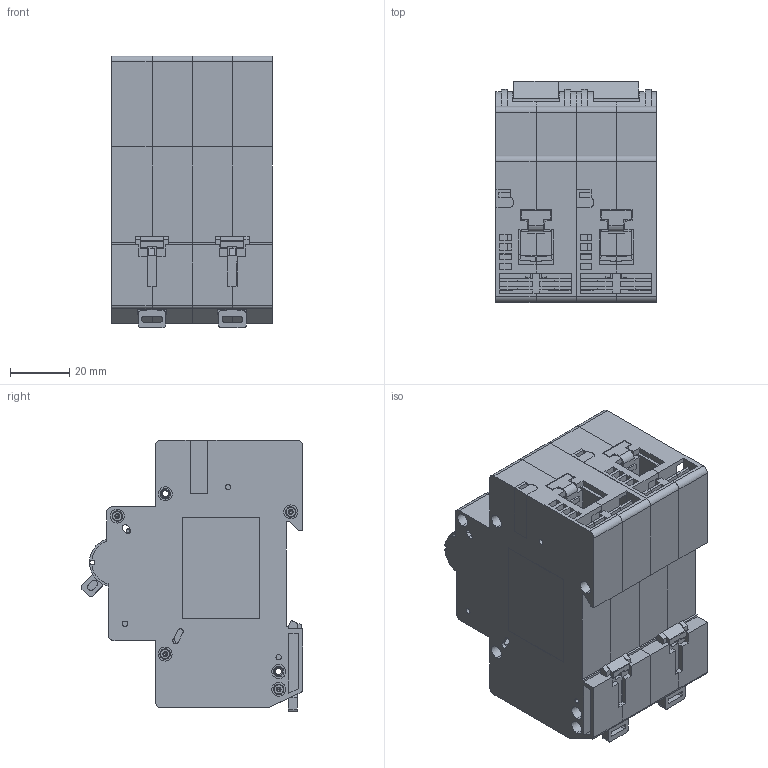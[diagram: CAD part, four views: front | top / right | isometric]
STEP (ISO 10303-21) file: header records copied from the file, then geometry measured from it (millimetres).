
FILE_DESCRIPTION (( 'STEP AP214' ), '1' );
FILE_NAME ('OptiDin BM125 1X-ÍÐ230.STEP', '2023-04-17T13:47:49', ( '' ), ( '' ), 'SwSTEP 2.0', 'SolidWorks 2018', '' );
FILE_SCHEMA (( 'AUTOMOTIVE_DESIGN' ));
Length unit declared in the file: millimetre
Products named in the file (25): _____ ______ ____.000000.000.STEP.STEP; OptiDin BM125 1X-迖230; ____ ____.000000.000.STEP.STEP; _____ ____.000000.002.STEP.STEP; ________ ____.000000.000____ ______.STEP.STEP; _______ ____.741358.040.STEP; _________ ____.000000.001.STEP.STEP; ________ ____.758331.008_2-_.STEP.STEP; ___________ ______________ OptiDin BM125 __ ____.641463.000.STEP.STEP; ________ ____.754312.171.STEP.STEP; _____ ____.000000.000.STEP.STEP; _____ _______ ____.000000.000.STEP.STEP; ___________ ______________ OptiDin BM125 1X ____.641463.001.STEP.STEP; ______ ___________ ____.711121.004.STEP.STEP; _______ ____.000000.000.STEP.STEP; _________ ____.000000.000.STEP.STEP; _______ ____.000000.002.STEP.STEP; ________ _____ ____.000000.000.STEP.STEP; OptiDin BM125 1X-迖230.STEP; ________ ______ ____.000000.000.STEP.STEP; _________ ____.000000.002.STEP.STEP; OptiDin BM125 1X-__230.STEP.STEP; _______ ____.000000.000-1.STEP.STEP; _______ ____.000000.000-0.STEP.STEP; _____ ____.715311.079.STEP.STEP
Assembly tree (46 placements, depth 6):
  OptiDin BM125 1X-迖230
    OptiDin BM125 1X-迖230.STEP
      OptiDin BM125 1X-__230.STEP.STEP
        ___________ ______________ OptiDin BM125 1X ____.641463.001.STEP.STEP
          _________ ____.000000.000.STEP.STEP
            _________ ____.000000.002.STEP.STEP
            _________ ____.000000.001.STEP.STEP
          ________ _____ ____.000000.000.STEP.STEP
          ________ ______ ____.000000.000.STEP.STEP
          _______ ____.000000.002.STEP.STEP
          _____ ______ ____.000000.000.STEP.STEP
          _____ _______ ____.000000.000.STEP.STEP
          ____ ____.000000.000.STEP.STEP  x2
          _______ ____.000000.000.STEP.STEP  x2
          _____ ____.000000.000.STEP.STEP
          _______ ____.000000.000-0.STEP.STEP
          _______ ____.000000.000-1.STEP.STEP
          ________ ____.000000.000____ ______.STEP.STEP  x4
          ________ ____.754312.171.STEP.STEP
        ___________ ______________ OptiDin BM125 __ ____.641463.000.STEP.STEP
          _________ ____.000000.000.STEP.STEP
            _________ ____.000000.002.STEP.STEP
            _________ ____.000000.001.STEP.STEP
          ________ _____ ____.000000.000.STEP.STEP
          ________ ______ ____.000000.000.STEP.STEP
          _______ ____.000000.002.STEP.STEP
          _____ ______ ____.000000.000.STEP.STEP
          _____ _______ ____.000000.000.STEP.STEP
          ____ ____.000000.000.STEP.STEP  x2
          _______ ____.000000.000.STEP.STEP  x2
          _____ ____.000000.002.STEP.STEP
          _______ ____.000000.000-0.STEP.STEP
          ________ ____.000000.000____ ______.STEP.STEP  x4
          ______ ___________ ____.711121.004.STEP.STEP  x2
          _____ ____.715311.079.STEP.STEP
        ________ ____.758331.008_2-_.STEP.STEP  x2
      _______ ____.741358.040.STEP
Bounding box: 54.1 x 74.51 x 91.5 mm (x, y, z)
Volume: 109273.5 mm3; surface area: 133350.3 mm2
Topology: 42 solids, 43 shells, 2940 faces, 7776 edges, 4990 vertices
Faces by surface type: plane 2019, cylinder 763, torus 128, cone 30
Entity records: 46553 total; most frequent: CARTESIAN_POINT 8247, ORIENTED_EDGE 7810, DIRECTION 7781, EDGE_CURVE 3905, VECTOR 2917, LINE 2917, VERTEX_POINT 2538, AXIS2_PLACEMENT_3D 2432
